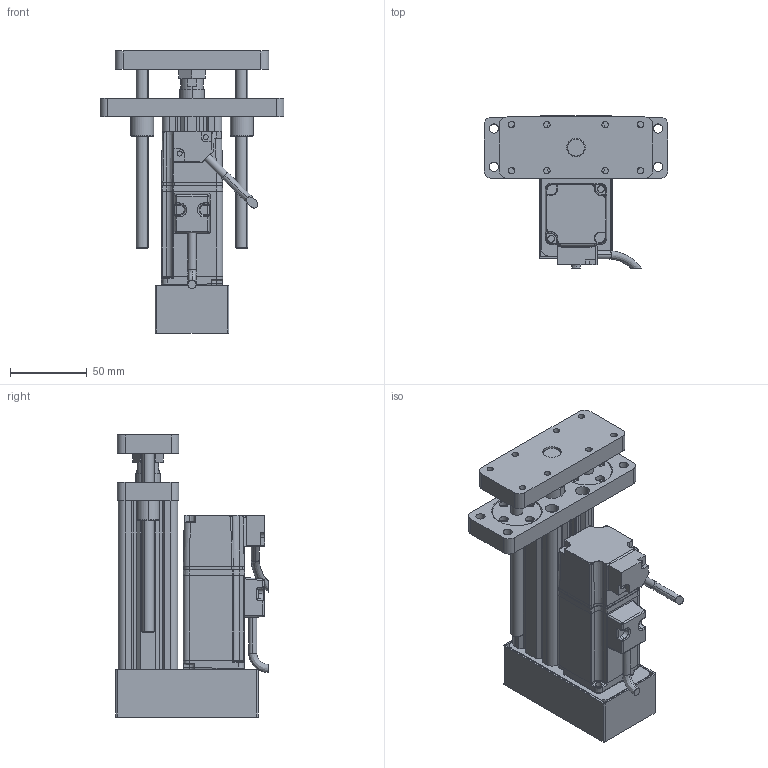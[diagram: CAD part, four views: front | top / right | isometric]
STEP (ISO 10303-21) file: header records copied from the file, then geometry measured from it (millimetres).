
FILE_DESCRIPTION (( 'STEP AP214' ), '1' );
FILE_NAME ('039-S50-D02-B-M3-C5-2.STEP', '2021-02-26T00:49:34', ( '' ), ( '' ), 'SwSTEP 2.0', 'SolidWorks 2018', '' );
FILE_SCHEMA (( 'AUTOMOTIVE_DESIGN' ));
Length unit declared in the file: millimetre
Products named in the file (11): CMC039-DT; CMC039-LJB; CMC039-DB; CMC039-GT; CMC039-FL; CMC039-XT; 039-S50-D02-B-M3-C5-2; CMC039-DZ; LME01-d8; ECMA-CX0401ES-40框號系列機種-100W低慣量系列; GB／T6172．1-2000六角薄螺母A级和B级M12
Assembly tree (12 placements, depth 2):
  039-S50-D02-B-M3-C5-2
    CMC039-GT
    CMC039-LJB
    CMC039-XT
    CMC039-FL
    CMC039-DT
    ECMA-CX0401ES-40框號系列機種-100W低慣量系列
    LME01-d8  x2
    CMC039-DB
    GB／T6172．1-2000六角薄螺母A级和B级M12
    CMC039-DZ  x2
Bounding box: 120 x 99.39 x 184 mm (x, y, z)
Volume: 436640.9 mm3; surface area: 148636.5 mm2
Topology: 12 solids, 20 shells, 766 faces, 1956 edges, 1223 vertices
Faces by surface type: cylinder 336, plane 275, bspline 88, cone 67
Entity records: 28536 total; most frequent: CARTESIAN_POINT 11352, ORIENTED_EDGE 3654, DIRECTION 3059, EDGE_CURVE 1827, VERTEX_POINT 1164, AXIS2_PLACEMENT_3D 1094, LINE 871, VECTOR 871
